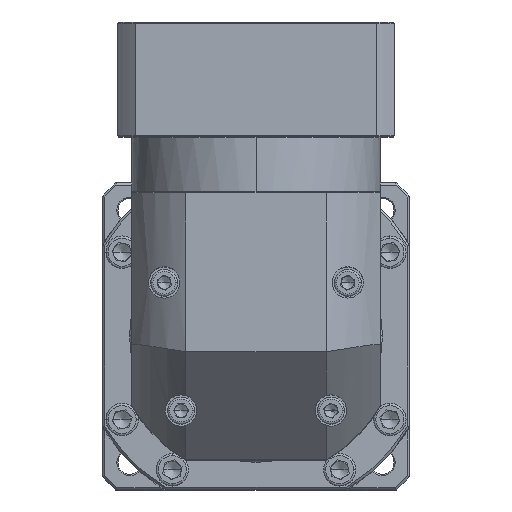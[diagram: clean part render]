
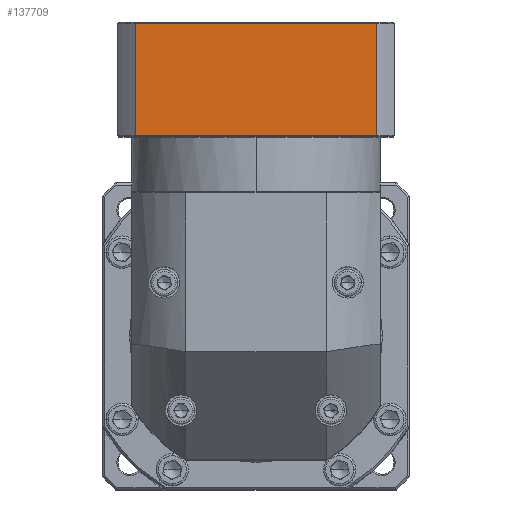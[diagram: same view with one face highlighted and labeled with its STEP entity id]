
A CAD part, top view. The second image highlights one B-rep face of the part: STEP entity #137709.
In plain terms, the highlighted planar face has unit normal (0, 0, 1).
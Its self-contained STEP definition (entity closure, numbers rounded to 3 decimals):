
#9334 = PLANE ( 'NONE',  #43579 ) ;
#20276 = DIRECTION ( 'NONE',  ( 0., 0., -1. ) ) ;
#25178 = VECTOR ( 'NONE', #90542, 1000. ) ;
#32837 = VERTEX_POINT ( 'NONE', #62504 ) ;
#36529 = CARTESIAN_POINT ( 'NONE',  ( -76.259, -59.167, 81.956 ) ) ;
#38416 = DIRECTION ( 'NONE',  ( 1., 0., 0. ) ) ;
#42312 = CARTESIAN_POINT ( 'NONE',  ( -76.259, 184.154, 81.956 ) ) ;
#43579 = AXIS2_PLACEMENT_3D ( 'NONE', #43958, #20276, #96983 ) ;
#43958 = CARTESIAN_POINT ( 'NONE',  ( -196.197, 236.654, 81.956 ) ) ;
#49615 = VERTEX_POINT ( 'NONE', #126708 ) ;
#50917 = EDGE_CURVE ( 'NONE', #54189, #32837, #124220, .T. ) ;
#51132 = LINE ( 'NONE', #131794, #86710 ) ;
#54013 = LINE ( 'NONE', #36529, #25178 ) ;
#54189 = VERTEX_POINT ( 'NONE', #42312 ) ;
#57028 = VERTEX_POINT ( 'NONE', #57527 ) ;
#57527 = CARTESIAN_POINT ( 'NONE',  ( -188.134, 236.154, 81.956 ) ) ;
#62504 = CARTESIAN_POINT ( 'NONE',  ( -188.134, 184.154, 81.956 ) ) ;
#64496 = ORIENTED_EDGE ( 'NONE', *, *, #50917, .F. ) ;
#65059 = EDGE_CURVE ( 'NONE', #32837, #57028, #51132, .T. ) ;
#68645 = LINE ( 'NONE', #114728, #92249 ) ;
#74905 = ORIENTED_EDGE ( 'NONE', *, *, #65059, .F. ) ;
#85138 = DIRECTION ( 'NONE',  ( -1., 0., 0. ) ) ;
#86309 = DIRECTION ( 'NONE',  ( 0., 1., 0. ) ) ;
#86710 = VECTOR ( 'NONE', #86309, 1000. ) ;
#90542 = DIRECTION ( 'NONE',  ( 0., -1., 0. ) ) ;
#92249 = VECTOR ( 'NONE', #38416, 1000. ) ;
#95395 = VECTOR ( 'NONE', #85138, 1000. ) ;
#96983 = DIRECTION ( 'NONE',  ( 1., 0., 0. ) ) ;
#99834 = ORIENTED_EDGE ( 'NONE', *, *, #110513, .F. ) ;
#110513 = EDGE_CURVE ( 'NONE', #49615, #54189, #54013, .T. ) ;
#114728 = CARTESIAN_POINT ( 'NONE',  ( -196.197, 236.154, 81.956 ) ) ;
#116965 = CARTESIAN_POINT ( 'NONE',  ( -196.197, 184.154, 81.956 ) ) ;
#124220 = LINE ( 'NONE', #116965, #95395 ) ;
#124559 = EDGE_LOOP ( 'NONE', ( #74905, #64496, #99834, #134738 ) ) ;
#126708 = CARTESIAN_POINT ( 'NONE',  ( -76.259, 236.154, 81.956 ) ) ;
#131794 = CARTESIAN_POINT ( 'NONE',  ( -188.134, -59.167, 81.956 ) ) ;
#134738 = ORIENTED_EDGE ( 'NONE', *, *, #138778, .F. ) ;
#137709 = ADVANCED_FACE ( 'NONE', ( #139865 ), #9334, .F. ) ;
#138778 = EDGE_CURVE ( 'NONE', #57028, #49615, #68645, .T. ) ;
#139865 = FACE_OUTER_BOUND ( 'NONE', #124559, .T. ) ;
